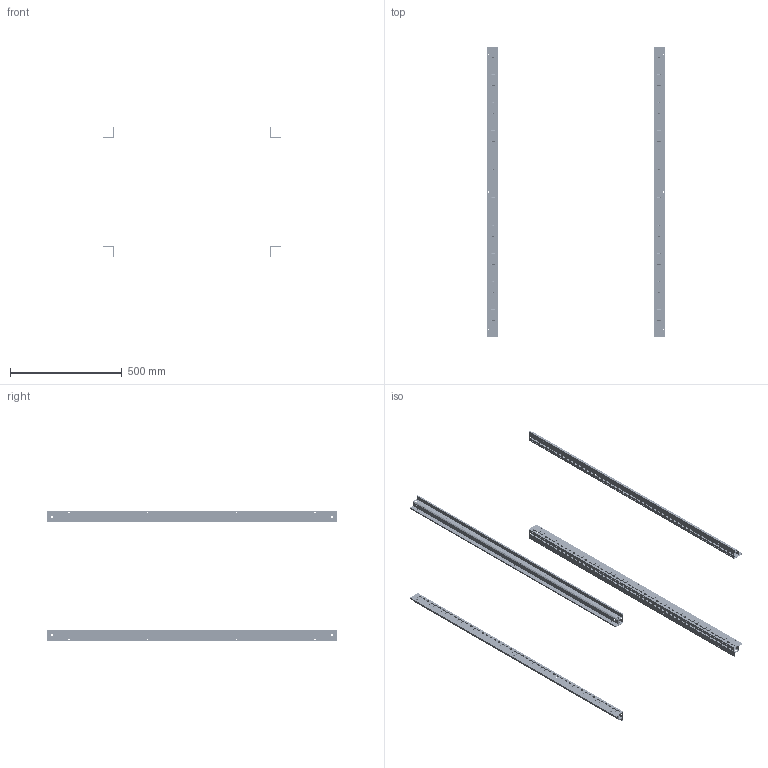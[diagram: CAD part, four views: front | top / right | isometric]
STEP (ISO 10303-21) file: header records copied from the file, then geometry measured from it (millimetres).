
FILE_DESCRIPTION(('Open CASCADE Model'),'2;1');
FILE_NAME('Open CASCADE Shape Model','2025-01-27T17:01:21',('Author'),( 'Open CASCADE'),'Open CASCADE STEP processor 7.8','Open CASCADE 7.8' ,'Unknown');
FILE_SCHEMA(('AUTOMOTIVE_DESIGN { 1 0 10303 214 1 1 1 1 }'));
Length unit declared in the file: millimetre
Products named in the file (2): Compound1; Solid1
Assembly tree (4 placements, depth 2):
  Compound1
    Solid1  x4
Bounding box: 799.4 x 1299 x 585.4 mm (x, y, z)
Volume: 1260371 mm3; surface area: 1926278.3 mm2
Topology: 4 solids, 4 shells, 8236 faces, 24388 edges, 16260 vertices
Faces by surface type: cylinder 4976, plane 3260
Full cylindrical faces by diameter (mm): 4.25 x824, 7 x28, 10 x16, 11 x28
Entity records: 71183 total; most frequent: DIRECTION 12713, CARTESIAN_POINT 12226, ORIENTED_EDGE 12194, EDGE_CURVE 6097, AXIS2_PLACEMENT_3D 4552, VERTEX_POINT 4065, LINE 3609, VECTOR 3609
